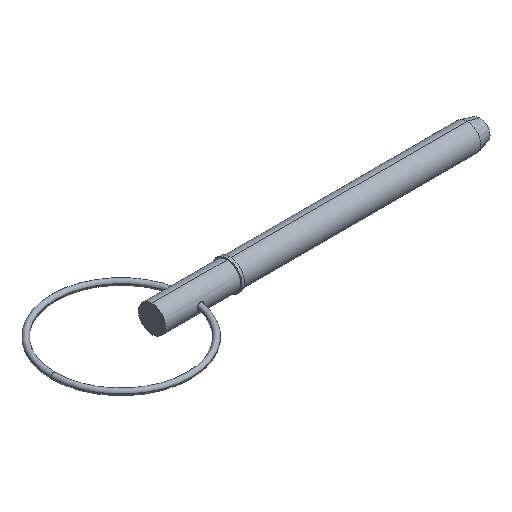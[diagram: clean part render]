
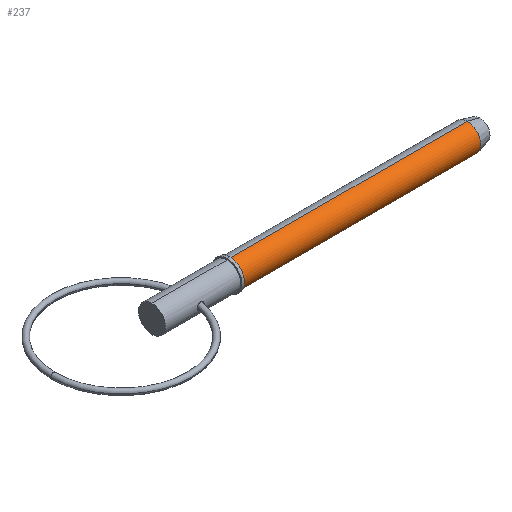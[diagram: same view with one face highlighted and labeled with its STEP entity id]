
A CAD part, isometric view. The second image highlights one B-rep face of the part: STEP entity #237.
In plain terms, the highlighted cylindrical face has radius 3.175 mm (diameter 6.35 mm), a partial arc.
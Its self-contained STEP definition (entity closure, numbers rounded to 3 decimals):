
#5 = EDGE_CURVE ( 'NONE', #638, #549, #664, .T. ) ;
#50 = CARTESIAN_POINT ( 'NONE',  ( 0., 0., -3.175 ) ) ;
#61 = DIRECTION ( 'NONE',  ( 0., 0., -1. ) ) ;
#84 = DIRECTION ( 'NONE',  ( 1., 0., 0. ) ) ;
#90 = DIRECTION ( 'NONE',  ( 0., 0., -1. ) ) ;
#92 = AXIS2_PLACEMENT_3D ( 'NONE', #465, #536, #612 ) ;
#179 = CARTESIAN_POINT ( 'NONE',  ( 18.29, 0., 0. ) ) ;
#203 = AXIS2_PLACEMENT_3D ( 'NONE', #305, #813, #61 ) ;
#237 = ADVANCED_FACE ( 'NONE', ( #596 ), #895, .T. ) ;
#255 = CIRCLE ( 'NONE', #893, 3.175 ) ;
#274 = LINE ( 'NONE', #50, #738 ) ;
#280 = VECTOR ( 'NONE', #652, 1000. ) ;
#305 = CARTESIAN_POINT ( 'NONE',  ( 0., 0., 0. ) ) ;
#452 = CARTESIAN_POINT ( 'NONE',  ( 18.29, 0., 3.175 ) ) ;
#460 = EDGE_CURVE ( 'NONE', #549, #778, #847, .T. ) ;
#465 = CARTESIAN_POINT ( 'NONE',  ( 74.048, 0., 0. ) ) ;
#488 = CARTESIAN_POINT ( 'NONE',  ( 74.048, 0., 3.175 ) ) ;
#536 = DIRECTION ( 'NONE',  ( 1., 0., 0. ) ) ;
#549 = VERTEX_POINT ( 'NONE', #488 ) ;
#562 = ORIENTED_EDGE ( 'NONE', *, *, #460, .F. ) ;
#572 = EDGE_CURVE ( 'NONE', #638, #871, #255, .T. ) ;
#596 = FACE_OUTER_BOUND ( 'NONE', #848, .T. ) ;
#612 = DIRECTION ( 'NONE',  ( 0., 0., -1. ) ) ;
#625 = ORIENTED_EDGE ( 'NONE', *, *, #572, .T. ) ;
#638 = VERTEX_POINT ( 'NONE', #452 ) ;
#652 = DIRECTION ( 'NONE',  ( 1., 0., 0. ) ) ;
#664 = LINE ( 'NONE', #728, #280 ) ;
#675 = ORIENTED_EDGE ( 'NONE', *, *, #5, .F. ) ;
#728 = CARTESIAN_POINT ( 'NONE',  ( 0., 0., 3.175 ) ) ;
#738 = VECTOR ( 'NONE', #814, 1000. ) ;
#768 = EDGE_CURVE ( 'NONE', #871, #778, #274, .T. ) ;
#778 = VERTEX_POINT ( 'NONE', #970 ) ;
#813 = DIRECTION ( 'NONE',  ( 1., 0., 0. ) ) ;
#814 = DIRECTION ( 'NONE',  ( 1., 0., 0. ) ) ;
#831 = CARTESIAN_POINT ( 'NONE',  ( 18.29, 0., -3.175 ) ) ;
#847 = CIRCLE ( 'NONE', #92, 3.175 ) ;
#848 = EDGE_LOOP ( 'NONE', ( #675, #625, #974, #562 ) ) ;
#871 = VERTEX_POINT ( 'NONE', #831 ) ;
#893 = AXIS2_PLACEMENT_3D ( 'NONE', #179, #84, #90 ) ;
#895 = CYLINDRICAL_SURFACE ( 'NONE', #203, 3.175 ) ;
#970 = CARTESIAN_POINT ( 'NONE',  ( 74.048, 0., -3.175 ) ) ;
#974 = ORIENTED_EDGE ( 'NONE', *, *, #768, .T. ) ;
